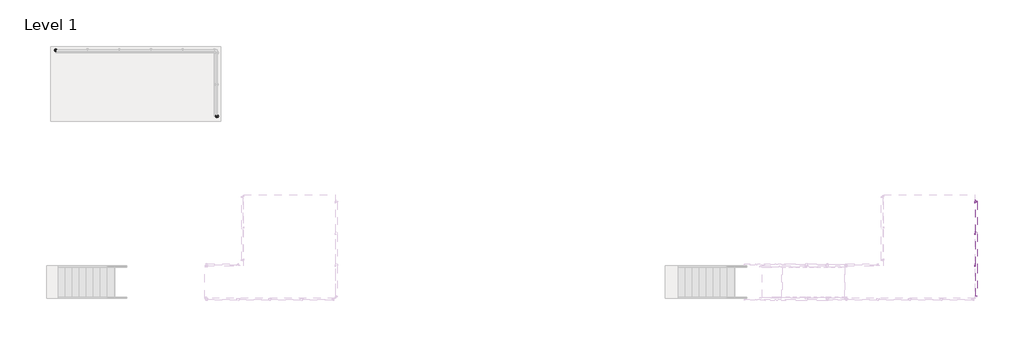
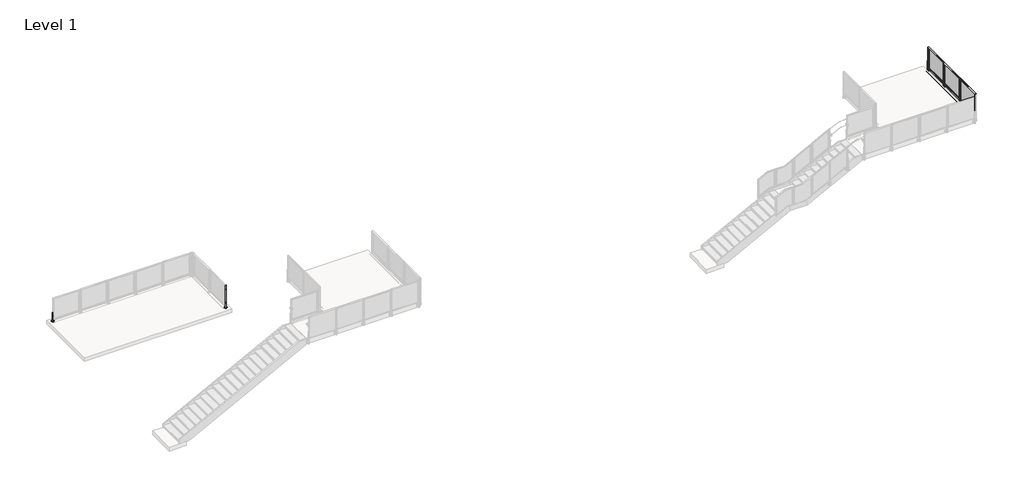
# One storey, part 28 of 37: 3 proxies, 1 railing.
"""IFC4 building model written with IfcOpenShell, lengths in millimetres."""

from ifc_helpers import new_model, si_unit, point, frame, frame_2d, origin, place, context, project, spatial, polyline, circle_curve, trimmed, segment, composite_curve, outline, extrude, faceted_brep, transform, mapped, element, save
from ifc_brep_helpers import plane_surface, cylinder_surface, advanced_brep
from components import baluster_end_post_viva_frame_top_mount_933f940f, baluster_end_post_viva_frame_top_mount_933cdb12, baluster_end_post_viva_frame_top_mount_welded_fascia_mount_f3869cb3

model = new_model("IFC4")

# Units and contexts
model_context = context("Model", 3, world=origin())
ifc_project = project(units=[si_unit("LENGTHUNIT", "METRE", prefix="MILLI")], contexts=[model_context])

# Site, building, storey
site = spatial("IfcSite", under=ifc_project)
building = spatial("IfcBuilding", under=site)
storey = spatial("IfcBuildingStorey", under=building, Name="Level 1", Elevation=0.0)

# Proxies
placement = place(None, origin())
baluster_end_post_viva_frame_top_mount_shape = baluster_end_post_viva_frame_top_mount_933f940f(model_context)
element("IfcBuildingElementProxy", 1, Name="Baluster-End-Post-VIVA-FRAME-Top Mount : CORED INTO CONCRETE_TOP MOUNT FOLD_STRAIGHT", ObjectType="Baluster-End-Post-VIVA-FRAME-Top Mount : CORED INTO CONCRETE_TOP MOUNT FOLD_STRAIGHT", at=placement, inside=storey, context=model_context, shape_type="MappedRepresentation", body=[
    mapped(baluster_end_post_viva_frame_top_mount_shape, transform((-39039.643347, 5915.4866335, -0.508), x_axis=(-1.0, 0.0, 0.0), y_axis=(0.0, -1.0, 0.0), z_axis=(0.0, 0.0, 1.0))),
])
baluster_end_post_viva_frame_top_mount_2_shape = baluster_end_post_viva_frame_top_mount_933cdb12(model_context)
element("IfcBuildingElementProxy", 2, Name="Baluster-End-Post-VIVA-FRAME-Top Mount : CORED INTO CONCRETE_TOP MOUNT FOLD_STRAIGHT", ObjectType="Baluster-End-Post-VIVA-FRAME-Top Mount : CORED INTO CONCRETE_TOP MOUNT FOLD_STRAIGHT", at=placement, inside=storey, context=model_context, shape_type="MappedRepresentation", body=[
    mapped(baluster_end_post_viva_frame_top_mount_2_shape, transform((-32693.4518242, 3379.2344262, -0.508), x_axis=(0.0, 1.0, 0.0), y_axis=(-1.0, 0.0, 0.0), z_axis=(0.0, 0.0, 1.0))),
])
baluster_end_post_viva_frame_top_mount_welded_fascia_mount_shape = baluster_end_post_viva_frame_top_mount_welded_fascia_mount_f3869cb3(model_context)
element("IfcBuildingElementProxy", 3, Name="Baluster-End-Post-VIVA-FRAME-Top Mount : WELDED Fascia MOUNT FOLD_STRAIGHT", ObjectType="Baluster-End-Post-VIVA-FRAME-Top Mount : WELDED Fascia MOUNT FOLD_STRAIGHT", at=placement, inside=storey, context=model_context, shape_type="MappedRepresentation", body=[
    mapped(baluster_end_post_viva_frame_top_mount_welded_fascia_mount_shape, transform((-2330.1000339, -32.9169538, 3047.492), x_axis=(0.0, 1.0, 0.0), y_axis=(-1.0, 0.0, 0.0), z_axis=(0.0, 0.0, 1.0))),
])

# Railing
element("IfcRailing", 4, ObjectType="Metal-Panel-VIVA-FRAME-Fascia-Straight", at=placement, inside=storey, context=model_context, shape_type="SolidModel", body=[
    extrude(outline(composite_curve([segment(trimmed(circle_curve(frame_2d((3047.746, -2330.1000339)), 0.254), [point((3047.746, -2329.8460339))], [point((3047.746, -2330.3540339))], False, "CARTESIAN"), True, "CONTINUOUS"), segment(trimmed(circle_curve(frame_2d((3047.746, -2330.1000339)), 0.254), [point((3047.746, -2330.3540339))], [point((3047.746, -2329.8460339))], False, "CARTESIAN"), True, "CONTINUOUS")], self_intersect=False)), frame((0.0, -3842.9169538, 0.0), z_axis=(0.0, 1.0, 0.0), x_axis=(0.0, 0.0, 1.0)), (0.0, 0.0, 1.0), 3810.0),
    extrude(outline(composite_curve([segment(trimmed(circle_curve(frame_2d((3047.746, -2330.1000339)), 0.254), [point((3047.746, -2329.8460339))], [point((3047.746, -2330.3540339))], False, "CARTESIAN"), True, "CONTINUOUS"), segment(trimmed(circle_curve(frame_2d((3047.746, -2330.1000339)), 0.254), [point((3047.746, -2330.3540339))], [point((3047.746, -2329.8460339))], False, "CARTESIAN"), True, "CONTINUOUS")], self_intersect=False)), frame((0.0, -3842.9169538, 0.0), z_axis=(0.0, 1.0, 0.0), x_axis=(0.0, 0.0, 1.0)), (0.0, 0.0, 1.0), 3810.0),
    extrude(outline(polyline([(-2175.6412339, -1262.0904969), (-2178.6412339, -1262.0904969), (-2178.6412339, -73.7434108), (-2175.6412339, -73.7434108), (-2175.6412339, -1262.0904969)])), frame((0.0, 0.0, 3124.1959569), z_axis=(0.0, 0.0, 1.0), x_axis=(1.0, 0.0, 0.0)), (0.0, 0.0, 1.0), 990.5826861),
    faceted_brep([(-2175.6412339, -1287.4904969, 4140.1786431), (-2175.6412339, -1287.4904969, 3098.7959569), (-2175.6412339, -48.3434108, 3098.7959569), (-2175.6412339, -48.3434108, 4140.1786431), (-2175.6412339, -1262.0904969, 4114.7786431), (-2175.6412339, -73.7434108, 4114.7786431), (-2175.6412339, -73.7434108, 3124.1959569), (-2175.6412339, -1262.0904969, 3124.1959569), (-2178.6412339, -73.7434108, 3124.1959569), (-2178.6412339, -1262.0904969, 3124.1959569), (-2178.6412339, -73.7434108, 4114.7786431), (-2178.6412339, -1262.0904969, 4114.7786431), (-2229.4412339, -1281.4960969, 3104.7903569), (-2198.6310339, -1281.4960969, 3104.7903569), (-2198.6310339, -54.3378108, 3104.7903569), (-2229.4412339, -54.3378108, 3104.7903569), (-2198.6310339, -54.3378108, 4134.1842431), (-2229.4412339, -54.3378108, 4134.1842431), (-2229.4412339, -1281.4960969, 4134.1842431), (-2198.6310339, -1281.4960969, 4134.1842431), (-2229.4412339, -48.3434108, 3098.7959569), (-2229.4412339, -1287.4904969, 3098.7959569), (-2229.4412339, -1287.4904969, 4140.1786431), (-2229.4412339, -48.3434108, 4140.1786431), (-2178.6412339, -1236.6904969, 4089.3786431), (-2178.6412339, -99.1434108, 4089.3786431), (-2178.6412339, -99.1434108, 3149.5959569), (-2178.6412339, -1236.6904969, 3149.5959569), (-2198.6310339, -99.1434108, 3149.5959569), (-2198.6310339, -99.1434108, 4089.3786431), (-2198.6310339, -1236.6904969, 4089.3786431), (-2198.6310339, -1236.6904969, 3149.5959569)], [[[0, 1, 2, 3], [4, 5, 6, 7]], [[7, 6, 8, 9]], [[6, 5, 10, 8]], [[5, 4, 11, 10]], [[4, 7, 9, 11]], [[12, 13, 14, 15]], [[15, 14, 16, 17]], [[13, 12, 18, 19]], [[20, 21, 22, 23], [12, 15, 17, 18]], [[21, 1, 0, 22]], [[21, 20, 2, 1]], [[2, 20, 23, 3]], [[22, 0, 3, 23]], [[11, 9, 8, 10], [24, 25, 26, 27]], [[14, 13, 19, 16], [28, 29, 30, 31]], [[19, 18, 17, 16]], [[25, 24, 30, 29]], [[26, 25, 29, 28]], [[27, 26, 28, 31]], [[24, 27, 31, 30]]]),
    extrude(outline(composite_curve([segment(polyline([(-2181.2163271, -1325.1419538), (-2239.1172339, -1325.1419538), (-2239.1172339, -1280.6919538), (-2181.2163271, -1280.6919538)]), True, "CONTINUOUS"), segment(trimmed(circle_curve(frame_2d((-2181.2163271, -1302.9169538)), 22.225), [point((-2181.2163271, -1280.6919538))], [point((-2181.2163271, -1325.1419538))], False, "CARTESIAN"), True, "CONTINUOUS")], self_intersect=False)), frame((0.0, 0.0, 2859.0748), z_axis=(0.0, 0.0, 1.0), x_axis=(1.0, 0.0, 0.0)), (0.0, 0.0, 1.0), 12.7),
    extrude(outline(composite_curve([segment(polyline([(-2239.1172339, -1280.6919538), (-2181.2163271, -1280.6919538)]), True, "CONTINUOUS"), segment(trimmed(circle_curve(frame_2d((-2181.2163271, -1302.9169538)), 22.225), [point((-2181.2163271, -1280.6919538))], [point((-2181.2163271, -1325.1419538))], False, "CARTESIAN"), True, "CONTINUOUS"), segment(polyline([(-2181.2163271, -1325.1419538), (-2239.1172339, -1325.1419538), (-2239.1172339, -1280.6919538)]), True, "CONTINUOUS")], self_intersect=False)), frame((0.0, 0.0, 2921.0), z_axis=(0.0, 0.0, 1.0), x_axis=(1.0, 0.0, 0.0)), (0.0, 0.0, 1.0), 12.7),
    extrude(outline(composite_curve([segment(trimmed(circle_curve(frame_2d((-1258.4720219, 2941.6502)), 4.7752), [point((-1253.6968219, 2941.6502))], [point((-1263.2472219, 2941.6502))], False, "CARTESIAN"), True, "CONTINUOUS"), segment(trimmed(circle_curve(frame_2d((-1258.4720219, 2941.6502)), 4.7752), [point((-1263.2472219, 2941.6502))], [point((-1253.6968219, 2941.6502))], False, "CARTESIAN"), True, "CONTINUOUS")], self_intersect=False)), frame((-2248.6422339, 0.0, 0.0), z_axis=(1.0, 0.0, 0.0), x_axis=(0.0, 1.0, 0.0)), (0.0, 0.0, 1.0), 14.3002),
    extrude(outline(composite_curve([segment(trimmed(circle_curve(frame_2d((-1347.3618857, 2941.6502)), 4.7752), [point((-1342.5866857, 2941.6502))], [point((-1352.1370857, 2941.6502))], False, "CARTESIAN"), True, "CONTINUOUS"), segment(trimmed(circle_curve(frame_2d((-1347.3618857, 2941.6502)), 4.7752), [point((-1352.1370857, 2941.6502))], [point((-1342.5866857, 2941.6502))], False, "CARTESIAN"), True, "CONTINUOUS")], self_intersect=False)), frame((-2248.6422339, 0.0, 0.0), z_axis=(1.0, 0.0, 0.0), x_axis=(0.0, 1.0, 0.0)), (0.0, 0.0, 1.0), 14.3002),
    extrude(outline(composite_curve([segment(trimmed(circle_curve(frame_2d((-1347.3618857, 2852.7502)), 4.7752), [point((-1342.5866857, 2852.7502))], [point((-1352.1370857, 2852.7502))], False, "CARTESIAN"), True, "CONTINUOUS"), segment(trimmed(circle_curve(frame_2d((-1347.3618857, 2852.7502)), 4.7752), [point((-1352.1370857, 2852.7502))], [point((-1342.5866857, 2852.7502))], False, "CARTESIAN"), True, "CONTINUOUS")], self_intersect=False)), frame((-2248.6422339, 0.0, 0.0), z_axis=(1.0, 0.0, 0.0), x_axis=(0.0, 1.0, 0.0)), (0.0, 0.0, 1.0), 14.3002),
    extrude(outline(composite_curve([segment(trimmed(circle_curve(frame_2d((-1258.4720219, 2852.7502)), 4.7752), [point((-1253.6968219, 2852.7502))], [point((-1263.2472219, 2852.7502))], False, "CARTESIAN"), True, "CONTINUOUS"), segment(trimmed(circle_curve(frame_2d((-1258.4720219, 2852.7502)), 4.7752), [point((-1263.2472219, 2852.7502))], [point((-1253.6968219, 2852.7502))], False, "CARTESIAN"), True, "CONTINUOUS")], self_intersect=False)), frame((-2248.6422339, 0.0, 0.0), z_axis=(1.0, 0.0, 0.0), x_axis=(0.0, 1.0, 0.0)), (0.0, 0.0, 1.0), 14.3002),
    extrude(outline(polyline([(-2248.6422339, -1239.4189323), (-2248.6422339, -1366.4149754), (-2258.1672339, -1366.4149754), (-2258.1672339, -1239.4189323), (-2248.6422339, -1239.4189323)])), frame((0.0, 0.0, 2833.7002), z_axis=(0.0, 0.0, 1.0), x_axis=(1.0, 0.0, 0.0)), (0.0, 0.0, 1.0), 127.0),
    extrude(outline(polyline([(-2239.1172339, -1239.4189323), (-2239.1172339, -1366.4149754), (-2248.6422339, -1366.4149754), (-2248.6422339, -1239.4189323), (-2239.1172339, -1239.4189323)])), frame((0.0, 0.0, 2833.7002), z_axis=(0.0, 0.0, 1.0), x_axis=(1.0, 0.0, 0.0)), (0.0, 0.0, 1.0), 127.0),
    advanced_brep(
    [(-2201.0172339, -1329.1043538, 3178.1496), (-2201.0172339, -1329.1043538, 3197.2504), (-2201.0172339, -1329.1043538, 3187.7), (-2201.0172339, -1324.3291538, 3178.1496), (-2201.0172339, -1324.3291538, 3197.2504), (-2201.0172339, -1324.3291538, 3182.9248), (-2201.0172339, -1324.3291538, 3192.4752), (-2201.0172339, -1281.5047538, 3182.9248), (-2201.0172339, -1281.5047538, 3192.4752), (-2201.0172339, -1281.5047538, 3178.1496), (-2201.0172339, -1281.5047538, 3197.2504), (-2201.0172339, -1276.7295538, 3178.1496), (-2201.0172339, -1276.7295538, 3197.2504), (-2201.0172339, -1276.7295538, 3187.7)],
    [
        (0, 1, circle_curve(frame((-2201.0172339, -1329.1043538, 3187.7), z_axis=(0.0, -1.0, 0.0), x_axis=(0.0, 0.0, 1.0)), 9.5504)),
        (1, 2),
        (2, 0),
        (1, 0, circle_curve(frame((-2201.0172339, -1329.1043538, 3187.7), z_axis=(0.0, -1.0, 0.0), x_axis=(0.0, 0.0, 1.0)), 9.5504)),
        (3, 4, circle_curve(frame((-2201.0172339, -1324.3291538, 3187.7), z_axis=(0.0, -1.0, 0.0), x_axis=(0.0, 0.0, 1.0)), 9.5504)),
        (4, 1),
        (0, 3),
        (4, 3, circle_curve(frame((-2201.0172339, -1324.3291538, 3187.7), z_axis=(0.0, -1.0, 0.0), x_axis=(0.0, 0.0, 1.0)), 9.5504)),
        (5, 6, circle_curve(frame((-2201.0172339, -1324.3291538, 3187.7), z_axis=(0.0, -1.0, 0.0), x_axis=(0.0, 0.0, 1.0)), 4.7752)),
        (6, 4),
        (3, 5),
        (6, 5, circle_curve(frame((-2201.0172339, -1324.3291538, 3187.7), z_axis=(0.0, -1.0, 0.0), x_axis=(0.0, 0.0, 1.0)), 4.7752)),
        (7, 8, circle_curve(frame((-2201.0172339, -1281.5047538, 3187.7), z_axis=(0.0, -1.0, 0.0), x_axis=(0.0, 0.0, 1.0)), 4.7752)),
        (8, 6),
        (5, 7),
        (8, 7, circle_curve(frame((-2201.0172339, -1281.5047538, 3187.7), z_axis=(0.0, -1.0, 0.0), x_axis=(0.0, 0.0, 1.0)), 4.7752)),
        (9, 10, circle_curve(frame((-2201.0172339, -1281.5047538, 3187.7), z_axis=(0.0, -1.0, 0.0), x_axis=(0.0, 0.0, 1.0)), 9.5504)),
        (10, 8),
        (7, 9),
        (10, 9, circle_curve(frame((-2201.0172339, -1281.5047538, 3187.7), z_axis=(0.0, -1.0, 0.0), x_axis=(0.0, 0.0, 1.0)), 9.5504)),
        (11, 12, circle_curve(frame((-2201.0172339, -1276.7295538, 3187.7), z_axis=(0.0, -1.0, 0.0), x_axis=(0.0, 0.0, 1.0)), 9.5504)),
        (12, 10),
        (9, 11),
        (12, 11, circle_curve(frame((-2201.0172339, -1276.7295538, 3187.7), z_axis=(0.0, -1.0, 0.0), x_axis=(0.0, 0.0, 1.0)), 9.5504)),
        (13, 12),
        (11, 13),
    ],
    [
        plane_surface(frame((-2201.0172339, -1329.1043538, 3187.7), z_axis=(0.0, -1.0, 0.0), x_axis=(0.0, 0.0, 1.0))),
        cylinder_surface(frame((-2201.0172339, -4720.684711, 3187.7), z_axis=(0.0, 1.0, 0.0), x_axis=(0.0, 0.0, 1.0)), 9.5504),
        plane_surface(frame((-2201.0172339, -1324.3291538, 3187.7), z_axis=(0.0, 1.0, 0.0), x_axis=(0.0, 0.0, 1.0))),
        cylinder_surface(frame((-2201.0172339, -4720.684711, 3187.7), z_axis=(0.0, 1.0, 0.0), x_axis=(0.0, 0.0, 1.0)), 4.7752),
        plane_surface(frame((-2201.0172339, -1281.5047538, 3187.7), z_axis=(0.0, -1.0, 0.0), x_axis=(0.0, 0.0, 1.0))),
        plane_surface(frame((-2201.0172339, -1276.7295538, 3187.7), z_axis=(0.0, 1.0, 0.0), x_axis=(0.0, 0.0, 1.0))),
    ],
    [
        (0, [[1, 2, 3]]),
        (0, [[4, -3, -2]]),
        (1, [[5, 6, -1, 7]]),
        (1, [[8, -7, -4, -6]]),
        (2, [[9, 10, -5, 11]]),
        (2, [[12, -11, -8, -10]]),
        (3, [[13, 14, -9, 15]]),
        (3, [[16, -15, -12, -14]]),
        (4, [[17, 18, -13, 19]]),
        (4, [[20, -19, -16, -18]]),
        (1, [[21, 22, -17, 23]]),
        (1, [[24, -23, -20, -22]]),
        (5, [[25, -21, 26]]),
        (5, [[-26, -24, -25]]),
    ],
),
    advanced_brep(
    [(-2201.0172339, -1329.1043538, 3419.4496), (-2201.0172339, -1329.1043538, 3438.5504), (-2201.0172339, -1329.1043538, 3429.0), (-2201.0172339, -1324.3291538, 3419.4496), (-2201.0172339, -1324.3291538, 3438.5504), (-2201.0172339, -1324.3291538, 3424.2248), (-2201.0172339, -1324.3291538, 3433.7752), (-2201.0172339, -1281.5047538, 3424.2248), (-2201.0172339, -1281.5047538, 3433.7752), (-2201.0172339, -1281.5047538, 3419.4496), (-2201.0172339, -1281.5047538, 3438.5504), (-2201.0172339, -1276.7295538, 3419.4496), (-2201.0172339, -1276.7295538, 3438.5504), (-2201.0172339, -1276.7295538, 3429.0)],
    [
        (0, 1, circle_curve(frame((-2201.0172339, -1329.1043538, 3429.0), z_axis=(0.0, -1.0, 0.0), x_axis=(0.0, 0.0, 1.0)), 9.5504)),
        (1, 2),
        (2, 0),
        (1, 0, circle_curve(frame((-2201.0172339, -1329.1043538, 3429.0), z_axis=(0.0, -1.0, 0.0), x_axis=(0.0, 0.0, 1.0)), 9.5504)),
        (3, 4, circle_curve(frame((-2201.0172339, -1324.3291538, 3429.0), z_axis=(0.0, -1.0, 0.0), x_axis=(0.0, 0.0, 1.0)), 9.5504)),
        (4, 1),
        (0, 3),
        (4, 3, circle_curve(frame((-2201.0172339, -1324.3291538, 3429.0), z_axis=(0.0, -1.0, 0.0), x_axis=(0.0, 0.0, 1.0)), 9.5504)),
        (5, 6, circle_curve(frame((-2201.0172339, -1324.3291538, 3429.0), z_axis=(0.0, -1.0, 0.0), x_axis=(0.0, 0.0, 1.0)), 4.7752)),
        (6, 4),
        (3, 5),
        (6, 5, circle_curve(frame((-2201.0172339, -1324.3291538, 3429.0), z_axis=(0.0, -1.0, 0.0), x_axis=(0.0, 0.0, 1.0)), 4.7752)),
        (7, 8, circle_curve(frame((-2201.0172339, -1281.5047538, 3429.0), z_axis=(0.0, -1.0, 0.0), x_axis=(0.0, 0.0, 1.0)), 4.7752)),
        (8, 6),
        (5, 7),
        (8, 7, circle_curve(frame((-2201.0172339, -1281.5047538, 3429.0), z_axis=(0.0, -1.0, 0.0), x_axis=(0.0, 0.0, 1.0)), 4.7752)),
        (9, 10, circle_curve(frame((-2201.0172339, -1281.5047538, 3429.0), z_axis=(0.0, -1.0, 0.0), x_axis=(0.0, 0.0, 1.0)), 9.5504)),
        (10, 8),
        (7, 9),
        (10, 9, circle_curve(frame((-2201.0172339, -1281.5047538, 3429.0), z_axis=(0.0, -1.0, 0.0), x_axis=(0.0, 0.0, 1.0)), 9.5504)),
        (11, 12, circle_curve(frame((-2201.0172339, -1276.7295538, 3429.0), z_axis=(0.0, -1.0, 0.0), x_axis=(0.0, 0.0, 1.0)), 9.5504)),
        (12, 10),
        (9, 11),
        (12, 11, circle_curve(frame((-2201.0172339, -1276.7295538, 3429.0), z_axis=(0.0, -1.0, 0.0), x_axis=(0.0, 0.0, 1.0)), 9.5504)),
        (13, 12),
        (11, 13),
    ],
    [
        plane_surface(frame((-2201.0172339, -1329.1043538, 3429.0), z_axis=(0.0, -1.0, 0.0), x_axis=(0.0, 0.0, 1.0))),
        cylinder_surface(frame((-2201.0172339, -4720.684711, 3429.0), z_axis=(0.0, 1.0, 0.0), x_axis=(0.0, 0.0, 1.0)), 9.5504),
        plane_surface(frame((-2201.0172339, -1324.3291538, 3429.0), z_axis=(0.0, 1.0, 0.0), x_axis=(0.0, 0.0, 1.0))),
        cylinder_surface(frame((-2201.0172339, -4720.684711, 3429.0), z_axis=(0.0, 1.0, 0.0), x_axis=(0.0, 0.0, 1.0)), 4.7752),
        plane_surface(frame((-2201.0172339, -1281.5047538, 3429.0), z_axis=(0.0, -1.0, 0.0), x_axis=(0.0, 0.0, 1.0))),
        plane_surface(frame((-2201.0172339, -1276.7295538, 3429.0), z_axis=(0.0, 1.0, 0.0), x_axis=(0.0, 0.0, 1.0))),
    ],
    [
        (0, [[1, 2, 3]]),
        (0, [[4, -3, -2]]),
        (1, [[5, 6, -1, 7]]),
        (1, [[8, -7, -4, -6]]),
        (2, [[9, 10, -5, 11]]),
        (2, [[12, -11, -8, -10]]),
        (3, [[13, 14, -9, 15]]),
        (3, [[16, -15, -12, -14]]),
        (4, [[17, 18, -13, 19]]),
        (4, [[20, -19, -16, -18]]),
        (1, [[21, 22, -17, 23]]),
        (1, [[24, -23, -20, -22]]),
        (5, [[25, -21, 26]]),
        (5, [[-26, -24, -25]]),
    ],
),
    extrude(outline(polyline([(-2223.2422339, -1310.8565455), (-2223.2422339, -1294.9773622), (-2178.7922339, -1294.9773622), (-2178.7922339, -1310.8565455), (-2223.2422339, -1310.8565455)])), frame((0.0, 0.0, 2865.4248), z_axis=(0.0, 0.0, 1.0), x_axis=(1.0, 0.0, 0.0)), (0.0, 0.0, 1.0), 588.9752),
    extrude(outline(polyline([(-2175.6412339, -2532.0904969), (-2178.6412339, -2532.0904969), (-2178.6412339, -1343.7434108), (-2175.6412339, -1343.7434108), (-2175.6412339, -2532.0904969)])), frame((0.0, 0.0, 3124.1959569), z_axis=(0.0, 0.0, 1.0), x_axis=(1.0, 0.0, 0.0)), (0.0, 0.0, 1.0), 990.5826861),
    faceted_brep([(-2175.6412339, -2557.4904969, 4140.1786431), (-2175.6412339, -2557.4904969, 3098.7959569), (-2175.6412339, -1318.3434108, 3098.7959569), (-2175.6412339, -1318.3434108, 4140.1786431), (-2175.6412339, -2532.0904969, 4114.7786431), (-2175.6412339, -1343.7434108, 4114.7786431), (-2175.6412339, -1343.7434108, 3124.1959569), (-2175.6412339, -2532.0904969, 3124.1959569), (-2178.6412339, -1343.7434108, 3124.1959569), (-2178.6412339, -2532.0904969, 3124.1959569), (-2178.6412339, -1343.7434108, 4114.7786431), (-2178.6412339, -2532.0904969, 4114.7786431), (-2229.4412339, -2551.4960969, 3104.7903569), (-2198.6310339, -2551.4960969, 3104.7903569), (-2198.6310339, -1324.3378108, 3104.7903569), (-2229.4412339, -1324.3378108, 3104.7903569), (-2198.6310339, -1324.3378108, 4134.1842431), (-2229.4412339, -1324.3378108, 4134.1842431), (-2229.4412339, -2551.4960969, 4134.1842431), (-2198.6310339, -2551.4960969, 4134.1842431), (-2229.4412339, -1318.3434108, 3098.7959569), (-2229.4412339, -2557.4904969, 3098.7959569), (-2229.4412339, -2557.4904969, 4140.1786431), (-2229.4412339, -1318.3434108, 4140.1786431), (-2178.6412339, -2506.6904969, 4089.3786431), (-2178.6412339, -1369.1434108, 4089.3786431), (-2178.6412339, -1369.1434108, 3149.5959569), (-2178.6412339, -2506.6904969, 3149.5959569), (-2198.6310339, -1369.1434108, 3149.5959569), (-2198.6310339, -1369.1434108, 4089.3786431), (-2198.6310339, -2506.6904969, 4089.3786431), (-2198.6310339, -2506.6904969, 3149.5959569)], [[[0, 1, 2, 3], [4, 5, 6, 7]], [[7, 6, 8, 9]], [[6, 5, 10, 8]], [[5, 4, 11, 10]], [[4, 7, 9, 11]], [[12, 13, 14, 15]], [[15, 14, 16, 17]], [[13, 12, 18, 19]], [[20, 21, 22, 23], [12, 15, 17, 18]], [[21, 1, 0, 22]], [[21, 20, 2, 1]], [[2, 20, 23, 3]], [[22, 0, 3, 23]], [[11, 9, 8, 10], [24, 25, 26, 27]], [[14, 13, 19, 16], [28, 29, 30, 31]], [[19, 18, 17, 16]], [[25, 24, 30, 29]], [[26, 25, 29, 28]], [[27, 26, 28, 31]], [[24, 27, 31, 30]]]),
    extrude(outline(composite_curve([segment(polyline([(-2181.2163271, -2595.1419538), (-2239.1172339, -2595.1419538), (-2239.1172339, -2550.6919538), (-2181.2163271, -2550.6919538)]), True, "CONTINUOUS"), segment(trimmed(circle_curve(frame_2d((-2181.2163271, -2572.9169538)), 22.225), [point((-2181.2163271, -2550.6919538))], [point((-2181.2163271, -2595.1419538))], False, "CARTESIAN"), True, "CONTINUOUS")], self_intersect=False)), frame((0.0, 0.0, 2859.0748), z_axis=(0.0, 0.0, 1.0), x_axis=(1.0, 0.0, 0.0)), (0.0, 0.0, 1.0), 12.7),
    extrude(outline(composite_curve([segment(polyline([(-2239.1172339, -2550.6919538), (-2181.2163271, -2550.6919538)]), True, "CONTINUOUS"), segment(trimmed(circle_curve(frame_2d((-2181.2163271, -2572.9169538)), 22.225), [point((-2181.2163271, -2550.6919538))], [point((-2181.2163271, -2595.1419538))], False, "CARTESIAN"), True, "CONTINUOUS"), segment(polyline([(-2181.2163271, -2595.1419538), (-2239.1172339, -2595.1419538), (-2239.1172339, -2550.6919538)]), True, "CONTINUOUS")], self_intersect=False)), frame((0.0, 0.0, 2921.0), z_axis=(0.0, 0.0, 1.0), x_axis=(1.0, 0.0, 0.0)), (0.0, 0.0, 1.0), 12.7),
    extrude(outline(composite_curve([segment(trimmed(circle_curve(frame_2d((-2528.4720219, 2941.6502)), 4.7752), [point((-2523.6968219, 2941.6502))], [point((-2533.2472219, 2941.6502))], False, "CARTESIAN"), True, "CONTINUOUS"), segment(trimmed(circle_curve(frame_2d((-2528.4720219, 2941.6502)), 4.7752), [point((-2533.2472219, 2941.6502))], [point((-2523.6968219, 2941.6502))], False, "CARTESIAN"), True, "CONTINUOUS")], self_intersect=False)), frame((-2248.6422339, 0.0, 0.0), z_axis=(1.0, 0.0, 0.0), x_axis=(0.0, 1.0, 0.0)), (0.0, 0.0, 1.0), 14.3002),
    extrude(outline(composite_curve([segment(trimmed(circle_curve(frame_2d((-2617.3618857, 2941.6502)), 4.7752), [point((-2612.5866857, 2941.6502))], [point((-2622.1370857, 2941.6502))], False, "CARTESIAN"), True, "CONTINUOUS"), segment(trimmed(circle_curve(frame_2d((-2617.3618857, 2941.6502)), 4.7752), [point((-2622.1370857, 2941.6502))], [point((-2612.5866857, 2941.6502))], False, "CARTESIAN"), True, "CONTINUOUS")], self_intersect=False)), frame((-2248.6422339, 0.0, 0.0), z_axis=(1.0, 0.0, 0.0), x_axis=(0.0, 1.0, 0.0)), (0.0, 0.0, 1.0), 14.3002),
    extrude(outline(composite_curve([segment(trimmed(circle_curve(frame_2d((-2617.3618857, 2852.7502)), 4.7752), [point((-2612.5866857, 2852.7502))], [point((-2622.1370857, 2852.7502))], False, "CARTESIAN"), True, "CONTINUOUS"), segment(trimmed(circle_curve(frame_2d((-2617.3618857, 2852.7502)), 4.7752), [point((-2622.1370857, 2852.7502))], [point((-2612.5866857, 2852.7502))], False, "CARTESIAN"), True, "CONTINUOUS")], self_intersect=False)), frame((-2248.6422339, 0.0, 0.0), z_axis=(1.0, 0.0, 0.0), x_axis=(0.0, 1.0, 0.0)), (0.0, 0.0, 1.0), 14.3002),
    extrude(outline(composite_curve([segment(trimmed(circle_curve(frame_2d((-2528.4720219, 2852.7502)), 4.7752), [point((-2523.6968219, 2852.7502))], [point((-2533.2472219, 2852.7502))], False, "CARTESIAN"), True, "CONTINUOUS"), segment(trimmed(circle_curve(frame_2d((-2528.4720219, 2852.7502)), 4.7752), [point((-2533.2472219, 2852.7502))], [point((-2523.6968219, 2852.7502))], False, "CARTESIAN"), True, "CONTINUOUS")], self_intersect=False)), frame((-2248.6422339, 0.0, 0.0), z_axis=(1.0, 0.0, 0.0), x_axis=(0.0, 1.0, 0.0)), (0.0, 0.0, 1.0), 14.3002),
    extrude(outline(polyline([(-2248.6422339, -2509.4189323), (-2248.6422339, -2636.4149754), (-2258.1672339, -2636.4149754), (-2258.1672339, -2509.4189323), (-2248.6422339, -2509.4189323)])), frame((0.0, 0.0, 2833.7002), z_axis=(0.0, 0.0, 1.0), x_axis=(1.0, 0.0, 0.0)), (0.0, 0.0, 1.0), 127.0),
    extrude(outline(polyline([(-2239.1172339, -2509.4189323), (-2239.1172339, -2636.4149754), (-2248.6422339, -2636.4149754), (-2248.6422339, -2509.4189323), (-2239.1172339, -2509.4189323)])), frame((0.0, 0.0, 2833.7002), z_axis=(0.0, 0.0, 1.0), x_axis=(1.0, 0.0, 0.0)), (0.0, 0.0, 1.0), 127.0),
    advanced_brep(
    [(-2201.0172339, -2599.1043538, 3178.1496), (-2201.0172339, -2599.1043538, 3197.2504), (-2201.0172339, -2599.1043538, 3187.7), (-2201.0172339, -2594.3291538, 3178.1496), (-2201.0172339, -2594.3291538, 3197.2504), (-2201.0172339, -2594.3291538, 3182.9248), (-2201.0172339, -2594.3291538, 3192.4752), (-2201.0172339, -2551.5047538, 3182.9248), (-2201.0172339, -2551.5047538, 3192.4752), (-2201.0172339, -2551.5047538, 3178.1496), (-2201.0172339, -2551.5047538, 3197.2504), (-2201.0172339, -2546.7295538, 3178.1496), (-2201.0172339, -2546.7295538, 3197.2504), (-2201.0172339, -2546.7295538, 3187.7)],
    [
        (0, 1, circle_curve(frame((-2201.0172339, -2599.1043538, 3187.7), z_axis=(0.0, -1.0, 0.0), x_axis=(0.0, 0.0, 1.0)), 9.5504)),
        (1, 2),
        (2, 0),
        (1, 0, circle_curve(frame((-2201.0172339, -2599.1043538, 3187.7), z_axis=(0.0, -1.0, 0.0), x_axis=(0.0, 0.0, 1.0)), 9.5504)),
        (3, 4, circle_curve(frame((-2201.0172339, -2594.3291538, 3187.7), z_axis=(0.0, -1.0, 0.0), x_axis=(0.0, 0.0, 1.0)), 9.5504)),
        (4, 1),
        (0, 3),
        (4, 3, circle_curve(frame((-2201.0172339, -2594.3291538, 3187.7), z_axis=(0.0, -1.0, 0.0), x_axis=(0.0, 0.0, 1.0)), 9.5504)),
        (5, 6, circle_curve(frame((-2201.0172339, -2594.3291538, 3187.7), z_axis=(0.0, -1.0, 0.0), x_axis=(0.0, 0.0, 1.0)), 4.7752)),
        (6, 4),
        (3, 5),
        (6, 5, circle_curve(frame((-2201.0172339, -2594.3291538, 3187.7), z_axis=(0.0, -1.0, 0.0), x_axis=(0.0, 0.0, 1.0)), 4.7752)),
        (7, 8, circle_curve(frame((-2201.0172339, -2551.5047538, 3187.7), z_axis=(0.0, -1.0, 0.0), x_axis=(0.0, 0.0, 1.0)), 4.7752)),
        (8, 6),
        (5, 7),
        (8, 7, circle_curve(frame((-2201.0172339, -2551.5047538, 3187.7), z_axis=(0.0, -1.0, 0.0), x_axis=(0.0, 0.0, 1.0)), 4.7752)),
        (9, 10, circle_curve(frame((-2201.0172339, -2551.5047538, 3187.7), z_axis=(0.0, -1.0, 0.0), x_axis=(0.0, 0.0, 1.0)), 9.5504)),
        (10, 8),
        (7, 9),
        (10, 9, circle_curve(frame((-2201.0172339, -2551.5047538, 3187.7), z_axis=(0.0, -1.0, 0.0), x_axis=(0.0, 0.0, 1.0)), 9.5504)),
        (11, 12, circle_curve(frame((-2201.0172339, -2546.7295538, 3187.7), z_axis=(0.0, -1.0, 0.0), x_axis=(0.0, 0.0, 1.0)), 9.5504)),
        (12, 10),
        (9, 11),
        (12, 11, circle_curve(frame((-2201.0172339, -2546.7295538, 3187.7), z_axis=(0.0, -1.0, 0.0), x_axis=(0.0, 0.0, 1.0)), 9.5504)),
        (13, 12),
        (11, 13),
    ],
    [
        plane_surface(frame((-2201.0172339, -2599.1043538, 3187.7), z_axis=(0.0, -1.0, 0.0), x_axis=(0.0, 0.0, 1.0))),
        cylinder_surface(frame((-2201.0172339, -5990.684711, 3187.7), z_axis=(0.0, 1.0, 0.0), x_axis=(0.0, 0.0, 1.0)), 9.5504),
        plane_surface(frame((-2201.0172339, -2594.3291538, 3187.7), z_axis=(0.0, 1.0, 0.0), x_axis=(0.0, 0.0, 1.0))),
        cylinder_surface(frame((-2201.0172339, -5990.684711, 3187.7), z_axis=(0.0, 1.0, 0.0), x_axis=(0.0, 0.0, 1.0)), 4.7752),
        plane_surface(frame((-2201.0172339, -2551.5047538, 3187.7), z_axis=(0.0, -1.0, 0.0), x_axis=(0.0, 0.0, 1.0))),
        plane_surface(frame((-2201.0172339, -2546.7295538, 3187.7), z_axis=(0.0, 1.0, 0.0), x_axis=(0.0, 0.0, 1.0))),
    ],
    [
        (0, [[1, 2, 3]]),
        (0, [[4, -3, -2]]),
        (1, [[5, 6, -1, 7]]),
        (1, [[8, -7, -4, -6]]),
        (2, [[9, 10, -5, 11]]),
        (2, [[12, -11, -8, -10]]),
        (3, [[13, 14, -9, 15]]),
        (3, [[16, -15, -12, -14]]),
        (4, [[17, 18, -13, 19]]),
        (4, [[20, -19, -16, -18]]),
        (1, [[21, 22, -17, 23]]),
        (1, [[24, -23, -20, -22]]),
        (5, [[25, -21, 26]]),
        (5, [[-26, -24, -25]]),
    ],
),
    advanced_brep(
    [(-2201.0172339, -2599.1043538, 3419.4496), (-2201.0172339, -2599.1043538, 3438.5504), (-2201.0172339, -2599.1043538, 3429.0), (-2201.0172339, -2594.3291538, 3419.4496), (-2201.0172339, -2594.3291538, 3438.5504), (-2201.0172339, -2594.3291538, 3424.2248), (-2201.0172339, -2594.3291538, 3433.7752), (-2201.0172339, -2551.5047538, 3424.2248), (-2201.0172339, -2551.5047538, 3433.7752), (-2201.0172339, -2551.5047538, 3419.4496), (-2201.0172339, -2551.5047538, 3438.5504), (-2201.0172339, -2546.7295538, 3419.4496), (-2201.0172339, -2546.7295538, 3438.5504), (-2201.0172339, -2546.7295538, 3429.0)],
    [
        (0, 1, circle_curve(frame((-2201.0172339, -2599.1043538, 3429.0), z_axis=(0.0, -1.0, 0.0), x_axis=(0.0, 0.0, 1.0)), 9.5504)),
        (1, 2),
        (2, 0),
        (1, 0, circle_curve(frame((-2201.0172339, -2599.1043538, 3429.0), z_axis=(0.0, -1.0, 0.0), x_axis=(0.0, 0.0, 1.0)), 9.5504)),
        (3, 4, circle_curve(frame((-2201.0172339, -2594.3291538, 3429.0), z_axis=(0.0, -1.0, 0.0), x_axis=(0.0, 0.0, 1.0)), 9.5504)),
        (4, 1),
        (0, 3),
        (4, 3, circle_curve(frame((-2201.0172339, -2594.3291538, 3429.0), z_axis=(0.0, -1.0, 0.0), x_axis=(0.0, 0.0, 1.0)), 9.5504)),
        (5, 6, circle_curve(frame((-2201.0172339, -2594.3291538, 3429.0), z_axis=(0.0, -1.0, 0.0), x_axis=(0.0, 0.0, 1.0)), 4.7752)),
        (6, 4),
        (3, 5),
        (6, 5, circle_curve(frame((-2201.0172339, -2594.3291538, 3429.0), z_axis=(0.0, -1.0, 0.0), x_axis=(0.0, 0.0, 1.0)), 4.7752)),
        (7, 8, circle_curve(frame((-2201.0172339, -2551.5047538, 3429.0), z_axis=(0.0, -1.0, 0.0), x_axis=(0.0, 0.0, 1.0)), 4.7752)),
        (8, 6),
        (5, 7),
        (8, 7, circle_curve(frame((-2201.0172339, -2551.5047538, 3429.0), z_axis=(0.0, -1.0, 0.0), x_axis=(0.0, 0.0, 1.0)), 4.7752)),
        (9, 10, circle_curve(frame((-2201.0172339, -2551.5047538, 3429.0), z_axis=(0.0, -1.0, 0.0), x_axis=(0.0, 0.0, 1.0)), 9.5504)),
        (10, 8),
        (7, 9),
        (10, 9, circle_curve(frame((-2201.0172339, -2551.5047538, 3429.0), z_axis=(0.0, -1.0, 0.0), x_axis=(0.0, 0.0, 1.0)), 9.5504)),
        (11, 12, circle_curve(frame((-2201.0172339, -2546.7295538, 3429.0), z_axis=(0.0, -1.0, 0.0), x_axis=(0.0, 0.0, 1.0)), 9.5504)),
        (12, 10),
        (9, 11),
        (12, 11, circle_curve(frame((-2201.0172339, -2546.7295538, 3429.0), z_axis=(0.0, -1.0, 0.0), x_axis=(0.0, 0.0, 1.0)), 9.5504)),
        (13, 12),
        (11, 13),
    ],
    [
        plane_surface(frame((-2201.0172339, -2599.1043538, 3429.0), z_axis=(0.0, -1.0, 0.0), x_axis=(0.0, 0.0, 1.0))),
        cylinder_surface(frame((-2201.0172339, -5990.684711, 3429.0), z_axis=(0.0, 1.0, 0.0), x_axis=(0.0, 0.0, 1.0)), 9.5504),
        plane_surface(frame((-2201.0172339, -2594.3291538, 3429.0), z_axis=(0.0, 1.0, 0.0), x_axis=(0.0, 0.0, 1.0))),
        cylinder_surface(frame((-2201.0172339, -5990.684711, 3429.0), z_axis=(0.0, 1.0, 0.0), x_axis=(0.0, 0.0, 1.0)), 4.7752),
        plane_surface(frame((-2201.0172339, -2551.5047538, 3429.0), z_axis=(0.0, -1.0, 0.0), x_axis=(0.0, 0.0, 1.0))),
        plane_surface(frame((-2201.0172339, -2546.7295538, 3429.0), z_axis=(0.0, 1.0, 0.0), x_axis=(0.0, 0.0, 1.0))),
    ],
    [
        (0, [[1, 2, 3]]),
        (0, [[4, -3, -2]]),
        (1, [[5, 6, -1, 7]]),
        (1, [[8, -7, -4, -6]]),
        (2, [[9, 10, -5, 11]]),
        (2, [[12, -11, -8, -10]]),
        (3, [[13, 14, -9, 15]]),
        (3, [[16, -15, -12, -14]]),
        (4, [[17, 18, -13, 19]]),
        (4, [[20, -19, -16, -18]]),
        (1, [[21, 22, -17, 23]]),
        (1, [[24, -23, -20, -22]]),
        (5, [[25, -21, 26]]),
        (5, [[-26, -24, -25]]),
    ],
),
    extrude(outline(polyline([(-2223.2422339, -2580.8565455), (-2223.2422339, -2564.9773622), (-2178.7922339, -2564.9773622), (-2178.7922339, -2580.8565455), (-2223.2422339, -2580.8565455)])), frame((0.0, 0.0, 2865.4248), z_axis=(0.0, 0.0, 1.0), x_axis=(1.0, 0.0, 0.0)), (0.0, 0.0, 1.0), 588.9752),
    extrude(outline(polyline([(-2175.6412339, -3802.0904969), (-2178.6412339, -3802.0904969), (-2178.6412339, -2613.7434108), (-2175.6412339, -2613.7434108), (-2175.6412339, -3802.0904969)])), frame((0.0, 0.0, 3124.1959569), z_axis=(0.0, 0.0, 1.0), x_axis=(1.0, 0.0, 0.0)), (0.0, 0.0, 1.0), 990.5826861),
    faceted_brep([(-2175.6412339, -3827.4904969, 4140.1786431), (-2175.6412339, -3827.4904969, 3098.7959569), (-2175.6412339, -2588.3434108, 3098.7959569), (-2175.6412339, -2588.3434108, 4140.1786431), (-2175.6412339, -3802.0904969, 4114.7786431), (-2175.6412339, -2613.7434108, 4114.7786431), (-2175.6412339, -2613.7434108, 3124.1959569), (-2175.6412339, -3802.0904969, 3124.1959569), (-2178.6412339, -2613.7434108, 3124.1959569), (-2178.6412339, -3802.0904969, 3124.1959569), (-2178.6412339, -2613.7434108, 4114.7786431), (-2178.6412339, -3802.0904969, 4114.7786431), (-2229.4412339, -3821.4960969, 3104.7903569), (-2198.6310339, -3821.4960969, 3104.7903569), (-2198.6310339, -2594.3378108, 3104.7903569), (-2229.4412339, -2594.3378108, 3104.7903569), (-2198.6310339, -2594.3378108, 4134.1842431), (-2229.4412339, -2594.3378108, 4134.1842431), (-2229.4412339, -3821.4960969, 4134.1842431), (-2198.6310339, -3821.4960969, 4134.1842431), (-2229.4412339, -2588.3434108, 3098.7959569), (-2229.4412339, -3827.4904969, 3098.7959569), (-2229.4412339, -3827.4904969, 4140.1786431), (-2229.4412339, -2588.3434108, 4140.1786431), (-2178.6412339, -3776.6904969, 4089.3786431), (-2178.6412339, -2639.1434108, 4089.3786431), (-2178.6412339, -2639.1434108, 3149.5959569), (-2178.6412339, -3776.6904969, 3149.5959569), (-2198.6310339, -2639.1434108, 3149.5959569), (-2198.6310339, -2639.1434108, 4089.3786431), (-2198.6310339, -3776.6904969, 4089.3786431), (-2198.6310339, -3776.6904969, 3149.5959569)], [[[0, 1, 2, 3], [4, 5, 6, 7]], [[7, 6, 8, 9]], [[6, 5, 10, 8]], [[5, 4, 11, 10]], [[4, 7, 9, 11]], [[12, 13, 14, 15]], [[15, 14, 16, 17]], [[13, 12, 18, 19]], [[20, 21, 22, 23], [12, 15, 17, 18]], [[21, 1, 0, 22]], [[21, 20, 2, 1]], [[2, 20, 23, 3]], [[22, 0, 3, 23]], [[11, 9, 8, 10], [24, 25, 26, 27]], [[14, 13, 19, 16], [28, 29, 30, 31]], [[19, 18, 17, 16]], [[25, 24, 30, 29]], [[26, 25, 29, 28]], [[27, 26, 28, 31]], [[24, 27, 31, 30]]]),
])

save(model, "model.ifc")
